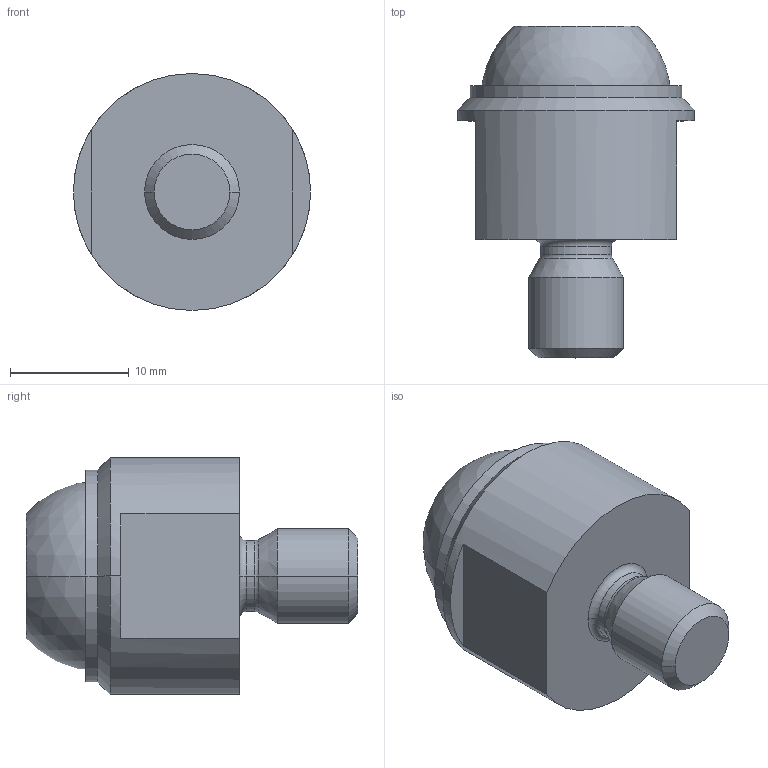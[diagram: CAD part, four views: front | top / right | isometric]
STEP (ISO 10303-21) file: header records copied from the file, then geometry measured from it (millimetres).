
FILE_DESCRIPTION (( 'STEP AP214' ), '1' );
FILE_NAME ('709.15-20-M8-B.step', '2023-01-25T09:32:29', ( '' ), ( '' ), 'SwSTEP 2.0', 'SolidWorks 2022', '' );
FILE_SCHEMA (( 'AUTOMOTIVE_DESIGN' ));
Length unit declared in the file: millimetre
Products named in the file (3): 709.15-20-M8-B; WB709.15_Kugel^WB709.15_16-B; WB709.15_Gehäuse^WB709.15_20-M8
Assembly tree (2 placements, depth 2):
  709.15-20-M8-B
    WB709.15_Gehäuse^WB709.15_20-M8
    WB709.15_Kugel^WB709.15_16-B
Bounding box: 20 x 28 x 20 mm (x, y, z)
Volume: 4935.5 mm3; surface area: 2661.3 mm2
Topology: 2 solids, 2 shells, 32 faces, 74 edges, 44 vertices
Faces by surface type: plane 10, cylinder 8, cone 6, torus 4, sphere 4
Entity records: 970 total; most frequent: DIRECTION 180, CARTESIAN_POINT 139, ORIENTED_EDGE 128, AXIS2_PLACEMENT_3D 79, EDGE_CURVE 64, CIRCLE 42, VERTEX_POINT 38, EDGE_LOOP 34
